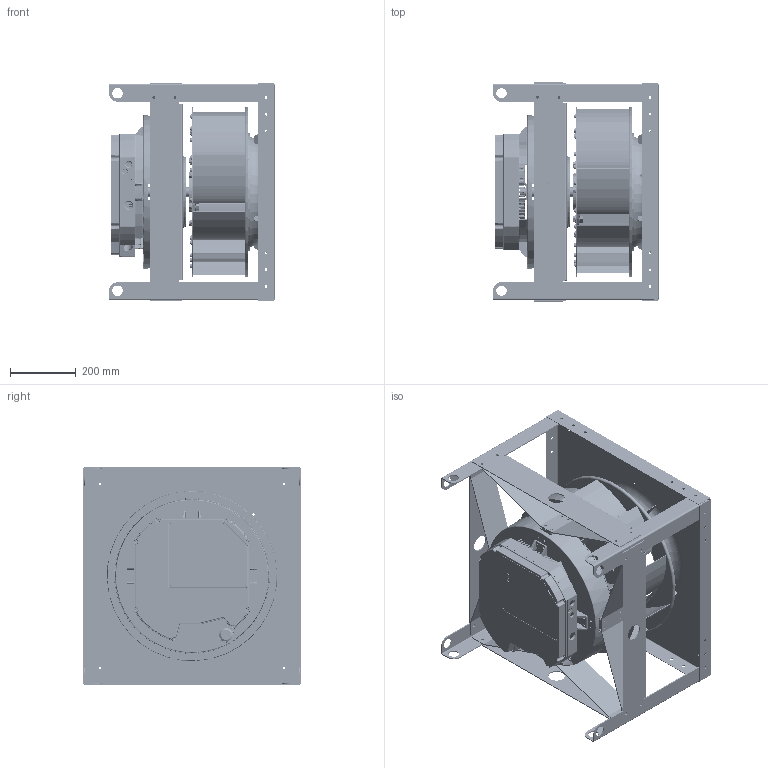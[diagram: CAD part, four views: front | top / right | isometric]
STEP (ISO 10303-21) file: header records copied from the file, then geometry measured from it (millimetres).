
FILE_DESCRIPTION (( 'STEP AP214' ), '1' );
FILE_NAME ('655791.STEP', '2026-06-10T20:04:26', ( '' ), ( '' ), 'SwSTEP 2.0', 'SolidWorks 2023', '' );
FILE_SCHEMA (( 'AUTOMOTIVE_DESIGN' ));
Length unit declared in the file: inch
Products named in the file (19): SXPI STRAP_651579; SXP20 WHEEL ASSY_655590; SXP20 FP_651397; SXP20 INLET ASSY_655569; SXP20 BAFFLE_651420; 941044_941044; 655791; SXP20 INLET_651415; 925770CS_925770CS; SXP20 BLADE_651395; 651586_651586; 941768_941768; 651612_651612; SXP20 BP_651398; 941153_941153; 651591_651591; 941770_BUSHING  TB2012 X 1.125; SXP20 WHEEL WELDMENT_655575; 941156_941156
Assembly tree (83 placements, depth 4):
  655791
    651591_651591
    SXP20 INLET ASSY_655569
      SXP20 INLET_651415
      SXP20 BAFFLE_651420  x4
    SXP20 WHEEL ASSY_655590
      SXP20 WHEEL WELDMENT_655575
        SXP20 FP_651397
        SXP20 BLADE_651395  x9
        SXP20 BP_651398
        941044_941044  x36
      941153_941153  x6
      941156_941156  x6
      941768_941768
    925770CS_925770CS
    651612_651612  x4
    941770_BUSHING  TB2012 X 1.125
    651586_651586  x4
    SXPI STRAP_651579  x4
Bounding box: 502.99 x 663.7 x 663.7 mm (x, y, z)
Volume: 11572008 mm3; surface area: 6381252.9 mm2
Topology: 98 solids, 98 shells, 14431 faces, 35687 edges, 21242 vertices
Faces by surface type: bspline 3800, plane 3664, cylinder 3561, cone 1585, torus 1437, sphere 384
Full cylindrical faces by diameter (mm): 3.962 x10, 4.762 x4, 4.763 x14, 6.35 x36, 7.137 x16, 7.544 x2, 8.738 x84, 9.525 x12, 13.208 x36, 14.097 x6, 19.05 x6, 20.32 x10, 20.637 x6, 31.75 x8, 50.8 x4, 110 x2, 140 x2, 141.224 x1, 270 x1, 422.656 x1, 514.02 x1
Entity records: 446664 total; most frequent: CARTESIAN_POINT 211344, ORIENTED_EDGE 52512, DIRECTION 44702, EDGE_CURVE 26256, AXIS2_PLACEMENT_3D 18550, VERTEX_POINT 15587, EDGE_LOOP 12155, FACE_OUTER_BOUND 11341
